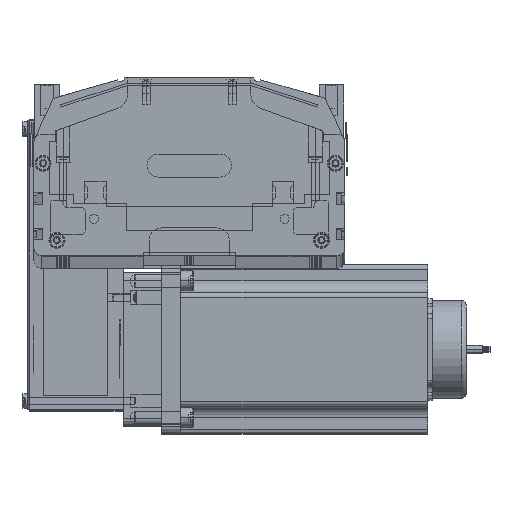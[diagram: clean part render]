
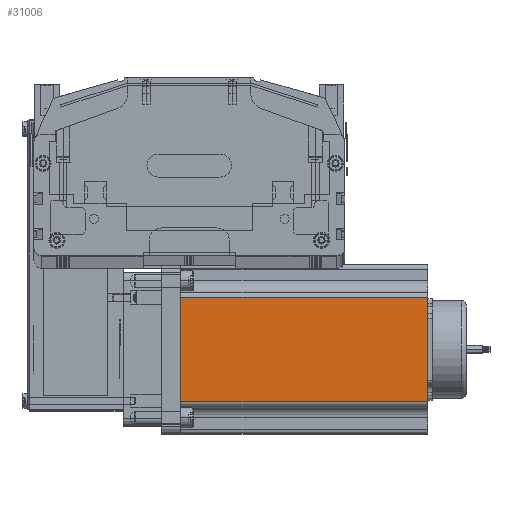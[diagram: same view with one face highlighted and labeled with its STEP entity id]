
A CAD part, top view. The second image highlights one B-rep face of the part: STEP entity #31006.
In plain terms, the highlighted planar face has unit normal (0, 0, 1) as drawn and (0, -1, 0) by its records, which use the part's own axes.
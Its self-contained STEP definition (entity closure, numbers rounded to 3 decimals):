
#8818 = CARTESIAN_POINT ( 'NONE',  ( 21.048, 0., 160.5 ) ) ;
#12207 = DIRECTION ( 'NONE',  ( 0., 0., -1. ) ) ;
#12208 = VECTOR ( 'NONE', #12207, 1000. ) ;
#12210 = CARTESIAN_POINT ( 'NONE',  ( 21.048, 0., 160.5 ) ) ;
#12211 = LINE ( 'NONE', #12210, #12208 ) ;
#31006 = ADVANCED_FACE ( 'NONE', ( #73216 ), #73211, .F. ) ;
#31521 = EDGE_LOOP ( 'NONE', ( #46436, #47824, #52774, #75208 ) ) ;
#45267 = VERTEX_POINT ( 'NONE', #87879 ) ;
#46436 = ORIENTED_EDGE ( 'NONE', *, *, #46437, .T. ) ;
#46437 = EDGE_CURVE ( 'NONE', #50103, #50040, #88185, .T. ) ;
#47824 = ORIENTED_EDGE ( 'NONE', *, *, #49878, .T. ) ;
#49878 = EDGE_CURVE ( 'NONE', #50040, #45267, #90194, .T. ) ;
#50040 = VERTEX_POINT ( 'NONE', #90944 ) ;
#50103 = VERTEX_POINT ( 'NONE', #91224 ) ;
#51660 = VERTEX_POINT ( 'NONE', #8818 ) ;
#52774 = ORIENTED_EDGE ( 'NONE', *, *, #75262, .F. ) ;
#52850 = EDGE_CURVE ( 'NONE', #51660, #50103, #12211, .T. ) ;
#59799 = DIRECTION ( 'NONE',  ( 1., 0., 0. ) ) ;
#59801 = VECTOR ( 'NONE', #59799, 1000. ) ;
#59803 = CARTESIAN_POINT ( 'NONE',  ( 0., 0., 160.5 ) ) ;
#59815 = LINE ( 'NONE', #59803, #59801 ) ;
#73182 = DIRECTION ( 'NONE',  ( 0., 1., 0. ) ) ;
#73183 = CARTESIAN_POINT ( 'NONE',  ( 0., 0., 160.5 ) ) ;
#73184 = AXIS2_PLACEMENT_3D ( 'NONE', #73183, #73182, #73251 ) ;
#73211 = PLANE ( 'NONE',  #73184 ) ;
#73216 = FACE_OUTER_BOUND ( 'NONE', #31521, .T. ) ;
#73251 = DIRECTION ( 'NONE',  ( 0., 0., 1. ) ) ;
#75208 = ORIENTED_EDGE ( 'NONE', *, *, #52850, .T. ) ;
#75262 = EDGE_CURVE ( 'NONE', #51660, #45267, #59815, .T. ) ;
#87879 = CARTESIAN_POINT ( 'NONE',  ( 88.952, 0., 160.5 ) ) ;
#88174 = DIRECTION ( 'NONE',  ( 1., 0., 0. ) ) ;
#88175 = VECTOR ( 'NONE', #88174, 1000. ) ;
#88182 = CARTESIAN_POINT ( 'NONE',  ( 0., 0., 0. ) ) ;
#88185 = LINE ( 'NONE', #88182, #88175 ) ;
#90187 = DIRECTION ( 'NONE',  ( 0., 0., 1. ) ) ;
#90189 = VECTOR ( 'NONE', #90187, 1000. ) ;
#90191 = CARTESIAN_POINT ( 'NONE',  ( 88.952, 0., 160.5 ) ) ;
#90194 = LINE ( 'NONE', #90191, #90189 ) ;
#90944 = CARTESIAN_POINT ( 'NONE',  ( 88.952, 0., 0. ) ) ;
#91224 = CARTESIAN_POINT ( 'NONE',  ( 21.048, 0., 0. ) ) ;
